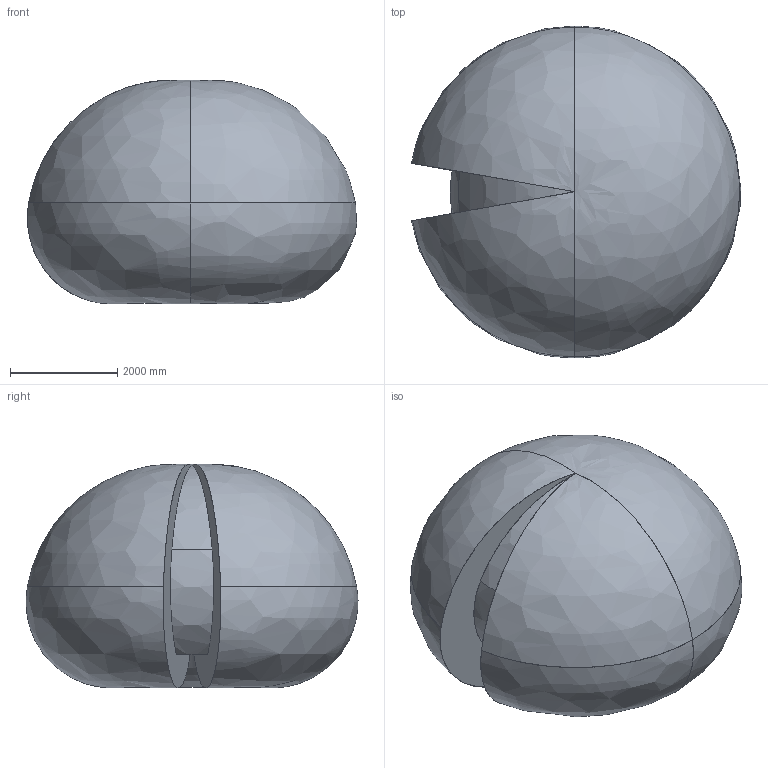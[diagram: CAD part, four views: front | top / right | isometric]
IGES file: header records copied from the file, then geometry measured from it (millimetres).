
Start section: SolidWorks IGES file using analytic representation for surfaces
Global section: file name: C:\DATA\SAP_DOC\LW\IRB 6730\IRB6730-LID-SW_190kg-310_OC_01_SW_J\Export\IRB6730-LID-SW_190kg-310_OC_01_IGES_J\IRB6730-LID_190kg-310_OC_00_Working-space.igs; native system: SolidWorks 2024; preprocessor: SolidWorks 2024; author: SEJOVAS3; date: 260526.111755; units: millimetre
Bounding box: 6143.29 x 6194 x 4176.8 mm (x, y, z)
Surface area: 128113038.6 mm2 (no closed solid volume)
Topology: 0 solids, 0 shells, 18 faces, 424 edges, 416 vertices
Faces by surface type: bspline 18
